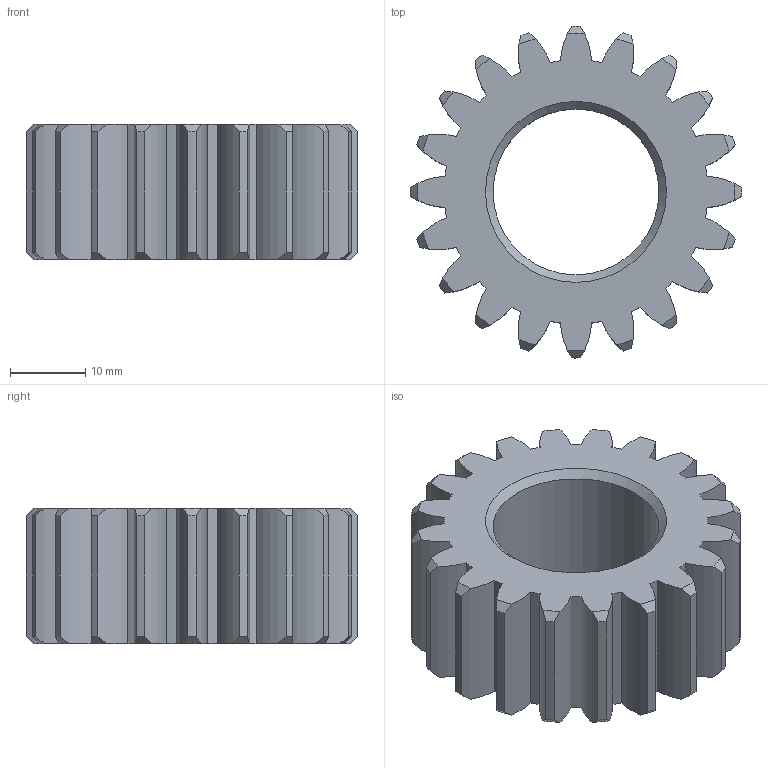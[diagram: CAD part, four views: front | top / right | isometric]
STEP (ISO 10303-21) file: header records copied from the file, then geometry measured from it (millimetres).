
FILE_DESCRIPTION(/* description */ (''),/* implementation_level */ '2;1');
FILE_NAME(/* name */ 'C:\Users\net\Desktop\1221.stp',/* time_stamp */ '2019-12-21T10:53:26+09:00',/* author */ ('net'),/* organization */ (''),/* preprocessor_version */ 'ST-DEVELOPER v15.2',/* originating_system */ 'Autodesk Inventor 2014',/* authorisation */ '');
FILE_SCHEMA (('AUTOMOTIVE_DESIGN { 1 0 10303 214 3 1 1 }'));
Length unit declared in the file: millimetre
Products named in the file (1): 1221
Bounding box: 44 x 44 x 18 mm (x, y, z)
Volume: 15383.7 mm3; surface area: 7252.2 mm2
Topology: 1 solids, 1 shells, 125 faces, 367 edges, 244 vertices
Faces by surface type: cylinder 81, cone 42, plane 2
Full cylindrical faces by diameter (mm): 22 x1
Entity records: 4359 total; most frequent: CARTESIAN_POINT 974, DIRECTION 740, ORIENTED_EDGE 728, EDGE_CURVE 364, AXIS2_PLACEMENT_3D 330, VERTEX_POINT 244, CIRCLE 204, EDGE_LOOP 130
